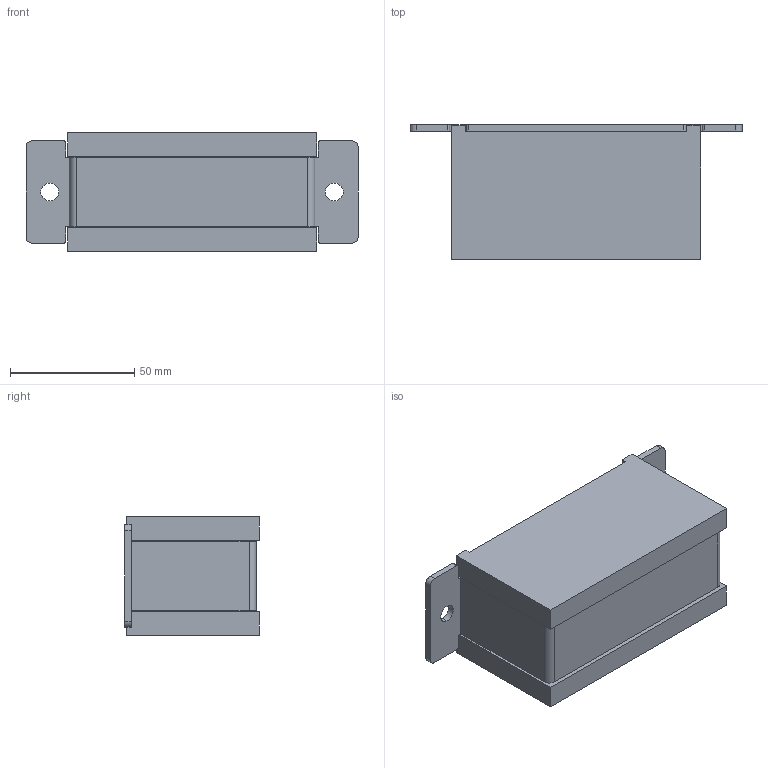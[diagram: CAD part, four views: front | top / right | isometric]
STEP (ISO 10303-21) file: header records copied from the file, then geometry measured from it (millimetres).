
FILE_DESCRIPTION (( 'STEP AP203' ), '1' );
FILE_NAME ('BP0250.STEP', '2018-07-26T20:22:00', ( '' ), ( '' ), 'SwSTEP 2.0', 'SolidWorks 2015', '' );
FILE_SCHEMA (( 'CONFIG_CONTROL_DESIGN' ));
Length unit declared in the file: inch
Products named in the file (1): BP0250
Bounding box: 133.35 x 53.98 x 47.62 mm (x, y, z)
Volume: 198990.8 mm3; surface area: 76827.2 mm2
Topology: 12 solids, 12 shells, 160 faces, 392 edges, 256 vertices
Faces by surface type: plane 108, cylinder 52
Entity records: 4757 total; most frequent: DIRECTION 818, CARTESIAN_POINT 809, ORIENTED_EDGE 784, EDGE_CURVE 392, LINE 288, VECTOR 288, AXIS2_PLACEMENT_3D 265, VERTEX_POINT 256
